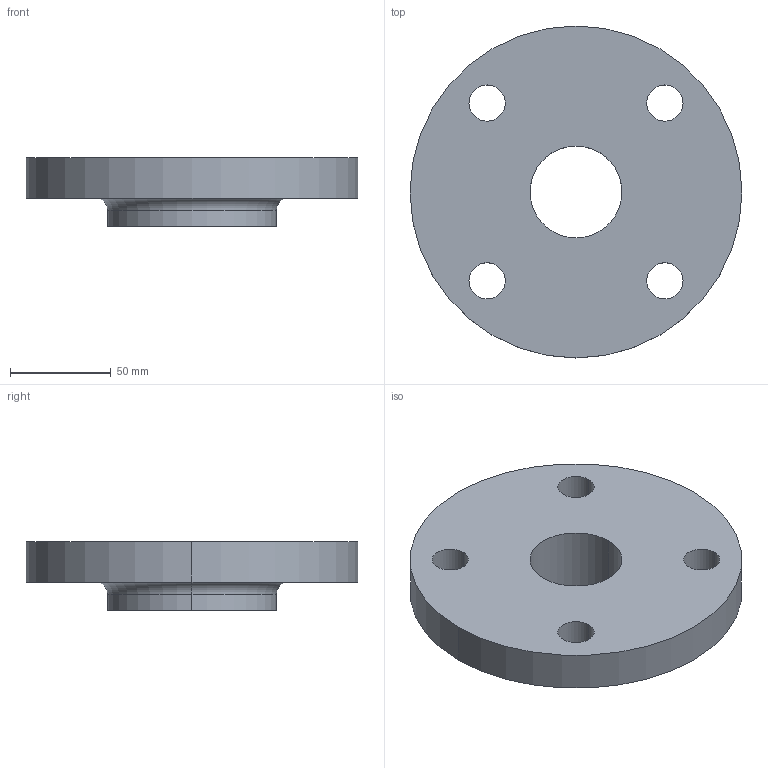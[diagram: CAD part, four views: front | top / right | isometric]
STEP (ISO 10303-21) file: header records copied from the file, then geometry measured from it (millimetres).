
FILE_DESCRIPTION (( 'STEP AP214' ), '1' );
FILE_NAME ('PN40 DN50 Type 13 - Type A Face.STEP', '2018-12-30T04:32:09', ( '' ), ( '' ), 'SwSTEP 2.0', 'SolidWorks 2019', '' );
FILE_SCHEMA (( 'AUTOMOTIVE_DESIGN' ));
Length unit declared in the file: millimetre
Products named in the file (1): PN40 DN50 Type 13 - Type A Face
Bounding box: 165 x 165 x 34 mm (x, y, z)
Volume: 431283.5 mm3; surface area: 60253.2 mm2
Topology: 1 solids, 1 shells, 19 faces, 46 edges, 30 vertices
Faces by surface type: cylinder 14, plane 3, torus 2
Entity records: 630 total; most frequent: DIRECTION 118, CARTESIAN_POINT 96, ORIENTED_EDGE 92, AXIS2_PLACEMENT_3D 52, EDGE_CURVE 46, CIRCLE 32, VERTEX_POINT 30, EDGE_LOOP 30
